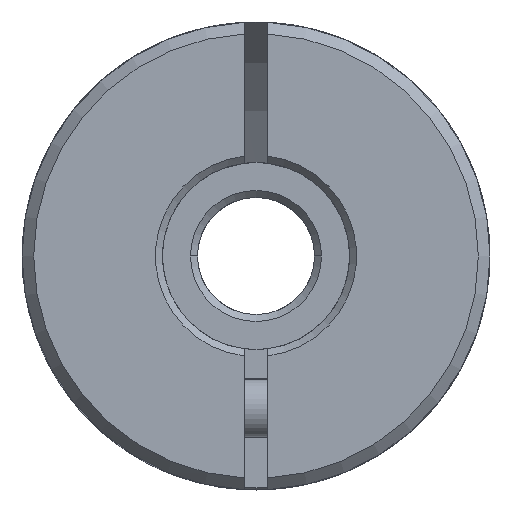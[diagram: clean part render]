
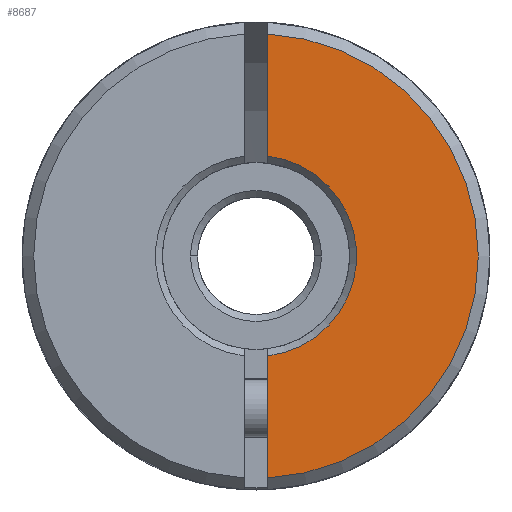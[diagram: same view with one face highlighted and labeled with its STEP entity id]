
A CAD part, front view. The second image highlights one B-rep face of the part: STEP entity #8687.
In plain terms, the highlighted planar face has unit normal (0, -1, 0).
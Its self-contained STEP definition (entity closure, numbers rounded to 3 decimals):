
#34 = VERTEX_POINT ( 'NONE', #3561 ) ;
#86 = AXIS2_PLACEMENT_3D ( 'NONE', #7688, #3758, #596 ) ;
#185 = VECTOR ( 'NONE', #5826, 1000. ) ;
#596 = DIRECTION ( 'NONE',  ( 0., 0., -1. ) ) ;
#715 = ORIENTED_EDGE ( 'NONE', *, *, #8289, .T. ) ;
#1087 = DIRECTION ( 'NONE',  ( 0., 1., 0. ) ) ;
#1707 = CARTESIAN_POINT ( 'NONE',  ( 0.5, -33., -4.271 ) ) ;
#1838 = PLANE ( 'NONE',  #6145 ) ;
#2340 = CARTESIAN_POINT ( 'NONE',  ( 0., -33., 0. ) ) ;
#2607 = CARTESIAN_POINT ( 'NONE',  ( 0.5, -33., -12.292 ) ) ;
#2751 = CARTESIAN_POINT ( 'NONE',  ( 50., -33., -12.292 ) ) ;
#2755 = EDGE_CURVE ( 'NONE', #4260, #5508, #7159, .T. ) ;
#3561 = CARTESIAN_POINT ( 'NONE',  ( 0.5, -33., 9.487 ) ) ;
#3758 = DIRECTION ( 'NONE',  ( 0., 1., 0. ) ) ;
#3910 = LINE ( 'NONE', #2607, #185 ) ;
#3999 = DIRECTION ( 'NONE',  ( 0., -1., 0. ) ) ;
#4174 = CARTESIAN_POINT ( 'NONE',  ( 0.5, -33., 4.271 ) ) ;
#4260 = VERTEX_POINT ( 'NONE', #5692 ) ;
#4351 = CARTESIAN_POINT ( 'NONE',  ( 0.5, -33., -12.292 ) ) ;
#4910 = FACE_OUTER_BOUND ( 'NONE', #9622, .T. ) ;
#5103 = VERTEX_POINT ( 'NONE', #4174 ) ;
#5161 = VECTOR ( 'NONE', #8265, 1000. ) ;
#5508 = VERTEX_POINT ( 'NONE', #1707 ) ;
#5692 = CARTESIAN_POINT ( 'NONE',  ( 0.5, -33., -9.487 ) ) ;
#5826 = DIRECTION ( 'NONE',  ( 0., 0., 1. ) ) ;
#5849 = ORIENTED_EDGE ( 'NONE', *, *, #5946, .T. ) ;
#5946 = EDGE_CURVE ( 'NONE', #4260, #34, #8379, .T. ) ;
#6145 = AXIS2_PLACEMENT_3D ( 'NONE', #2751, #1087, #9023 ) ;
#6870 = AXIS2_PLACEMENT_3D ( 'NONE', #2340, #3999, #10310 ) ;
#7155 = CIRCLE ( 'NONE', #86, 4.3 ) ;
#7159 = LINE ( 'NONE', #4351, #5161 ) ;
#7676 = ORIENTED_EDGE ( 'NONE', *, *, #2755, .F. ) ;
#7684 = ORIENTED_EDGE ( 'NONE', *, *, #9076, .F. ) ;
#7688 = CARTESIAN_POINT ( 'NONE',  ( 0., -33., 0. ) ) ;
#8265 = DIRECTION ( 'NONE',  ( 0., 0., 1. ) ) ;
#8289 = EDGE_CURVE ( 'NONE', #5103, #5508, #7155, .T. ) ;
#8379 = CIRCLE ( 'NONE', #6870, 9.5 ) ;
#8687 = ADVANCED_FACE ( 'NONE', ( #4910 ), #1838, .F. ) ;
#9023 = DIRECTION ( 'NONE',  ( 0., 0., -1. ) ) ;
#9076 = EDGE_CURVE ( 'NONE', #5103, #34, #3910, .T. ) ;
#9622 = EDGE_LOOP ( 'NONE', ( #7676, #5849, #7684, #715 ) ) ;
#10310 = DIRECTION ( 'NONE',  ( 0., 0., -1. ) ) ;
